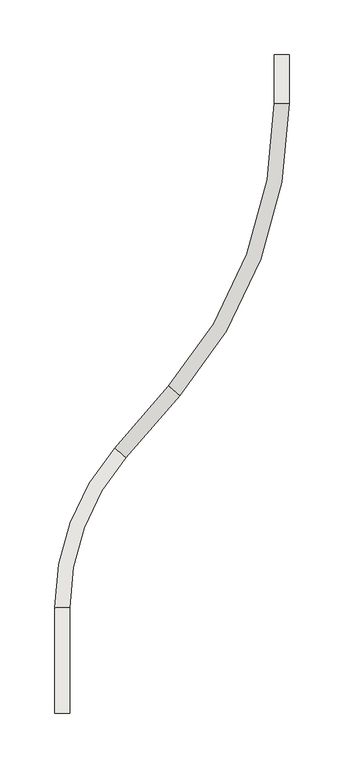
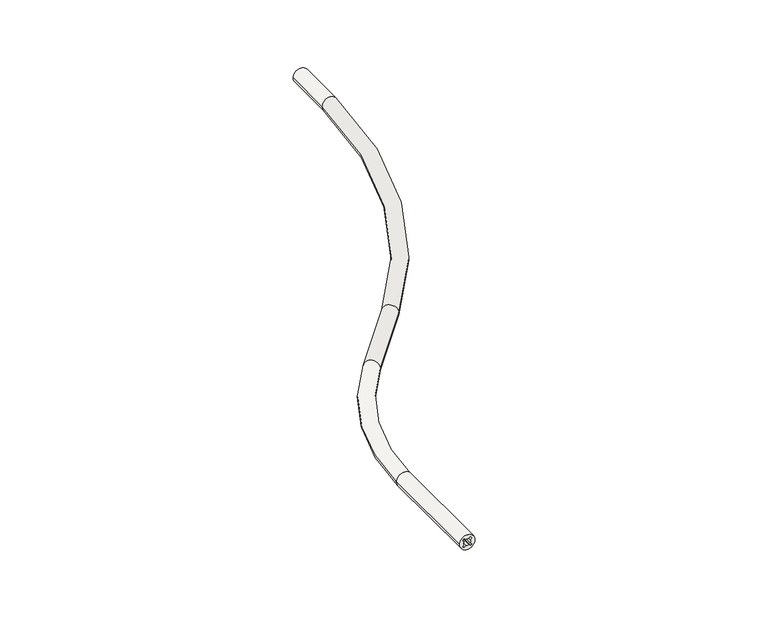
"""IFC4 building model written with IfcOpenShell, lengths in millimetres: covering geometry, SikaFuko® VT 1 : SikaFuko® VT-1."""

from ifc_helpers import new_model, si_unit, point, frame, origin, place, context, project, spatial, polyline, circle_curve, ellipse_curve, trimmed, source, transform, mapped, element, save
from ifc_brep_helpers import plane_surface, cylinder_surface, revolved_surface, advanced_brep


def covering_f5c34b17(model_context):
    return source(origin(), model_context, "Body", "AdvancedBrep", [
        advanced_brep(
        [(2789.7437039, 3596.0955189, 6.75), (2803.2437039, 3596.0955189, 6.75), (2797.9725233, 3596.0955189, 9.3601903), (2799.3463514, 3596.0955189, 10.7340184), (2800.4777222, 3596.0955189, 9.6026475), (2799.1038941, 3596.0955189, 8.2288194), (2799.1038941, 3596.0955189, 5.2711806), (2800.4777222, 3596.0955189, 3.8973525), (2799.3463514, 3596.0955189, 2.7659816), (2797.9725233, 3596.0955189, 4.1398097), (2795.0148845, 3596.0955189, 4.1398097), (2793.6410564, 3596.0955189, 2.7659816), (2792.5096855, 3596.0955189, 3.8973525), (2793.8835136, 3596.0955189, 5.2711806), (2793.8835136, 3596.0955189, 8.2288194), (2792.5096855, 3596.0955189, 9.6026475), (2793.6410564, 3596.0955189, 10.7340184), (2795.0148845, 3596.0955189, 9.3601903), (2999.3463514, 4152.2092698, 2.7659816), (3000.4777222, 4152.2092698, 3.8973525), (3000.4777222, 4196.0955189, 3.8973525), (2999.3463514, 4196.0955189, 2.7659816), (3003.2437039, 4152.2092698, 6.75), (2989.7437039, 4152.2092698, 6.75), (2989.7437039, 4196.0955189, 6.75), (3003.2437039, 4196.0955189, 6.75), (2999.1038941, 4152.2092698, 5.2711806), (2999.1038941, 4196.0955189, 5.2711806), (2999.3463514, 4152.2092698, 10.7340184), (2997.9725233, 4152.2092698, 9.3601903), (2997.9725233, 4196.0955189, 9.3601903), (2999.3463514, 4196.0955189, 10.7340184), (3000.4777222, 4152.2092698, 9.6026475), (3000.4777222, 4196.0955189, 9.6026475), (2995.0148845, 4152.2092698, 9.3601903), (2993.6410564, 4152.2092698, 10.7340184), (2993.6410564, 4196.0955189, 10.7340184), (2995.0148845, 4196.0955189, 9.3601903), (2999.1038941, 4152.2092698, 8.2288194), (2999.1038941, 4196.0955189, 8.2288194), (2992.5096855, 4152.2092698, 9.6026475), (2993.8835136, 4152.2092698, 8.2288194), (2993.8835136, 4196.0955189, 8.2288194), (2992.5096855, 4196.0955189, 9.6026475), (2993.8835136, 4152.2092698, 5.2711806), (2992.5096855, 4152.2092698, 3.8973525), (2992.5096855, 4196.0955189, 3.8973525), (2993.8835136, 4196.0955189, 5.2711806), (2993.6410564, 4152.2092698, 2.7659816), (2995.0148845, 4152.2092698, 4.1398097), (2995.0148845, 4196.0955189, 4.1398097), (2993.6410564, 4196.0955189, 2.7659816), (2997.9725233, 4152.2092698, 4.1398097), (2997.9725233, 4196.0955189, 4.1398097), (2800.4777222, 3692.1965105, 3.8973525), (2799.3463514, 3692.1965105, 2.7659816), (2789.7437039, 3692.1965105, 6.75), (2803.2437039, 3692.1965105, 6.75), (2799.1038941, 3692.1965105, 5.2711806), (2797.9725233, 3692.1965105, 9.3601903), (2799.3463514, 3692.1965105, 10.7340184), (2800.4777222, 3692.1965105, 9.6026475), (2793.6410564, 3692.1965105, 10.7340184), (2795.0148845, 3692.1965105, 9.3601903), (2799.1038941, 3692.1965105, 8.2288194), (2793.8835136, 3692.1965105, 8.2288194), (2792.5096855, 3692.1965105, 9.6026475), (2792.5096855, 3692.1965105, 3.8973525), (2793.8835136, 3692.1965105, 5.2711806), (2795.0148845, 3692.1965105, 4.1398097), (2793.6410564, 3692.1965105, 2.7659816), (2797.9725233, 3692.1965105, 4.1398097), (2851.3840645, 3831.3776966, 2.7659816), (2852.237921, 3830.6354505, 3.8973525), (2854.3254338, 3828.8208033, 6.75), (2844.1368545, 3837.6776001, 6.75), (2851.2010797, 3831.5367628, 5.2711806), (2851.3840645, 3831.3776966, 10.7340184), (2850.3472233, 3832.2790089, 9.3601903), (2852.237921, 3830.6354505, 9.6026475), (2848.115065, 3834.2193945, 9.3601903), (2847.0782237, 3835.1207069, 10.7340184), (2851.2010797, 3831.5367628, 8.2288194), (2846.2243673, 3835.8629529, 9.6026475), (2847.2612085, 3834.9616406, 8.2288194), (2847.2612085, 3834.9616406, 5.2711806), (2846.2243673, 3835.8629529, 3.8973525), (2847.0782237, 3835.1207069, 2.7659816), (2848.115065, 3834.2193945, 4.1398097), (2850.3472233, 3832.2790089, 4.1398097), (2901.3843128, 3887.171907, 3.8973525), (2900.5304564, 3887.914153, 2.7659816), (2893.2832463, 3894.2140566, 6.75), (2903.4718256, 3885.3572598, 6.75), (2900.3474716, 3888.0732193, 5.2711806), (2899.4936151, 3888.8154654, 9.3601903), (2900.5304564, 3887.914153, 10.7340184), (2901.3843128, 3887.171907, 9.6026475), (2896.2246156, 3891.6571633, 10.7340184), (2897.2614568, 3890.755851, 9.3601903), (2900.3474716, 3888.0732193, 8.2288194), (2896.4076004, 3891.4980971, 8.2288194), (2895.3707592, 3892.3994094, 9.6026475), (2895.3707592, 3892.3994094, 3.8973525), (2896.4076004, 3891.4980971, 5.2711806), (2897.2614568, 3890.755851, 4.1398097), (2896.2246156, 3891.6571633, 2.7659816), (2899.4936151, 3888.8154654, 4.1398097)],
        [
            (0, 1, circle_curve(frame((2796.4937039, 3596.0955189, 6.75), z_axis=(0.0, -1.0, 0.0), x_axis=(1.0, 0.0, 0.0)), 6.75)),
            (1, 0, circle_curve(frame((2796.4937039, 3596.0955189, 6.75), z_axis=(0.0, -1.0, 0.0), x_axis=(1.0, 0.0, 0.0)), 6.75)),
            (2, 3),
            (3, 4, circle_curve(frame((2796.4937039, 3596.0955189, 6.75), z_axis=(0.0, 1.0, 0.0), x_axis=(1.0, 0.0, 0.0)), 4.9)),
            (4, 5),
            (5, 6, circle_curve(frame((2796.4937039, 3596.0955189, 6.75), z_axis=(0.0, 1.0, 0.0), x_axis=(1.0, 0.0, 0.0)), 3.0)),
            (6, 7),
            (7, 8, circle_curve(frame((2796.4937039, 3596.0955189, 6.75), z_axis=(0.0, 1.0, 0.0), x_axis=(1.0, 0.0, 0.0)), 4.9)),
            (8, 9),
            (9, 10, circle_curve(frame((2796.4937039, 3596.0955189, 6.75), z_axis=(0.0, 1.0, 0.0), x_axis=(1.0, 0.0, 0.0)), 3.0)),
            (10, 11),
            (11, 12, circle_curve(frame((2796.4937039, 3596.0955189, 6.75), z_axis=(0.0, 1.0, 0.0), x_axis=(1.0, 0.0, 0.0)), 4.9)),
            (12, 13),
            (13, 14, circle_curve(frame((2796.4937039, 3596.0955189, 6.75), z_axis=(0.0, 1.0, 0.0), x_axis=(1.0, 0.0, 0.0)), 3.0)),
            (14, 15),
            (15, 16, circle_curve(frame((2796.4937039, 3596.0955189, 6.75), z_axis=(0.0, 1.0, 0.0), x_axis=(1.0, 0.0, 0.0)), 4.9)),
            (16, 17),
            (17, 2, circle_curve(frame((2796.4937039, 3596.0955189, 6.75), z_axis=(0.0, 1.0, 0.0), x_axis=(1.0, 0.0, 0.0)), 3.0)),
            (18, 19, circle_curve(frame((2996.4937039, 4152.2092698, 6.75), z_axis=(0.0, -1.0, 0.0), x_axis=(1.0, 0.0, 0.0)), 4.9)),
            (19, 20),
            (20, 21, circle_curve(frame((2996.4937039, 4196.0955189, 6.75), z_axis=(0.0, 1.0, 0.0), x_axis=(1.0, 0.0, 0.0)), 4.9)),
            (21, 18),
            (22, 23, circle_curve(frame((2996.4937039, 4152.2092698, 6.75), z_axis=(0.0, 1.0, 0.0), x_axis=(1.0, 0.0, 0.0)), 6.75)),
            (23, 24),
            (24, 25, circle_curve(frame((2996.4937039, 4196.0955189, 6.75), z_axis=(0.0, -1.0, 0.0), x_axis=(1.0, 0.0, 0.0)), 6.75)),
            (25, 22),
            (19, 26),
            (26, 27),
            (27, 20),
            (28, 29),
            (29, 30),
            (30, 31),
            (31, 28),
            (32, 28, circle_curve(frame((2996.4937039, 4152.2092698, 6.75), z_axis=(0.0, -1.0, 0.0), x_axis=(1.0, 0.0, 0.0)), 4.9)),
            (31, 33, circle_curve(frame((2996.4937039, 4196.0955189, 6.75), z_axis=(0.0, 1.0, 0.0), x_axis=(1.0, 0.0, 0.0)), 4.9)),
            (33, 32),
            (34, 35),
            (35, 36),
            (36, 37),
            (37, 34),
            (38, 32),
            (33, 39),
            (39, 38),
            (40, 41),
            (41, 42),
            (42, 43),
            (43, 40),
            (29, 34, circle_curve(frame((2996.4937039, 4152.2092698, 6.75), z_axis=(0.0, -1.0, 0.0), x_axis=(1.0, 0.0, 0.0)), 3.0)),
            (37, 30, circle_curve(frame((2996.4937039, 4196.0955189, 6.75), z_axis=(0.0, 1.0, 0.0), x_axis=(1.0, 0.0, 0.0)), 3.0)),
            (44, 45),
            (45, 46),
            (46, 47),
            (47, 44),
            (35, 40, circle_curve(frame((2996.4937039, 4152.2092698, 6.75), z_axis=(0.0, -1.0, 0.0), x_axis=(1.0, 0.0, 0.0)), 4.9)),
            (43, 36, circle_curve(frame((2996.4937039, 4196.0955189, 6.75), z_axis=(0.0, 1.0, 0.0), x_axis=(1.0, 0.0, 0.0)), 4.9)),
            (48, 49),
            (49, 50),
            (50, 51),
            (51, 48),
            (41, 44, circle_curve(frame((2996.4937039, 4152.2092698, 6.75), z_axis=(0.0, -1.0, 0.0), x_axis=(1.0, 0.0, 0.0)), 3.0)),
            (47, 42, circle_curve(frame((2996.4937039, 4196.0955189, 6.75), z_axis=(0.0, 1.0, 0.0), x_axis=(1.0, 0.0, 0.0)), 3.0)),
            (52, 18),
            (21, 53),
            (53, 52),
            (45, 48, circle_curve(frame((2996.4937039, 4152.2092698, 6.75), z_axis=(0.0, -1.0, 0.0), x_axis=(1.0, 0.0, 0.0)), 4.9)),
            (51, 46, circle_curve(frame((2996.4937039, 4196.0955189, 6.75), z_axis=(0.0, 1.0, 0.0), x_axis=(1.0, 0.0, 0.0)), 4.9)),
            (23, 22, circle_curve(frame((2996.4937039, 4152.2092698, 6.75), z_axis=(0.0, 1.0, 0.0), x_axis=(1.0, 0.0, 0.0)), 6.75)),
            (25, 24, circle_curve(frame((2996.4937039, 4196.0955189, 6.75), z_axis=(0.0, -1.0, 0.0), x_axis=(1.0, 0.0, 0.0)), 6.75)),
            (50, 53, circle_curve(frame((2996.4937039, 4196.0955189, 6.75), z_axis=(0.0, -1.0, 0.0), x_axis=(1.0, 0.0, 0.0)), 3.0)),
            (27, 39, circle_curve(frame((2996.4937039, 4196.0955189, 6.75), z_axis=(0.0, -1.0, 0.0), x_axis=(1.0, 0.0, 0.0)), 3.0)),
            (7, 54),
            (54, 55, circle_curve(frame((2796.4937039, 3692.1965105, 6.75), z_axis=(0.0, 1.0, 0.0), x_axis=(1.0, 0.0, 0.0)), 4.9)),
            (55, 8),
            (0, 56),
            (56, 57, circle_curve(frame((2796.4937039, 3692.1965105, 6.75), z_axis=(0.0, -1.0, 0.0), x_axis=(1.0, 0.0, 0.0)), 6.75)),
            (57, 1),
            (6, 58),
            (58, 54),
            (2, 59),
            (59, 60),
            (60, 3),
            (60, 61, circle_curve(frame((2796.4937039, 3692.1965105, 6.75), z_axis=(0.0, 1.0, 0.0), x_axis=(1.0, 0.0, 0.0)), 4.9)),
            (61, 4),
            (16, 62),
            (62, 63),
            (63, 17),
            (61, 64),
            (64, 5),
            (14, 65),
            (65, 66),
            (66, 15),
            (63, 59, circle_curve(frame((2796.4937039, 3692.1965105, 6.75), z_axis=(0.0, 1.0, 0.0), x_axis=(1.0, 0.0, 0.0)), 3.0)),
            (12, 67),
            (67, 68),
            (68, 13),
            (66, 62, circle_curve(frame((2796.4937039, 3692.1965105, 6.75), z_axis=(0.0, 1.0, 0.0), x_axis=(1.0, 0.0, 0.0)), 4.9)),
            (10, 69),
            (69, 70),
            (70, 11),
            (68, 65, circle_curve(frame((2796.4937039, 3692.1965105, 6.75), z_axis=(0.0, 1.0, 0.0), x_axis=(1.0, 0.0, 0.0)), 3.0)),
            (55, 71),
            (71, 9),
            (70, 67, circle_curve(frame((2796.4937039, 3692.1965105, 6.75), z_axis=(0.0, 1.0, 0.0), x_axis=(1.0, 0.0, 0.0)), 4.9)),
            (57, 56, circle_curve(frame((2796.4937039, 3692.1965105, 6.75), z_axis=(0.0, -1.0, 0.0), x_axis=(1.0, 0.0, 0.0)), 6.75)),
            (72, 55, circle_curve(frame((3011.4937039, 3692.1965105, 2.7659816), z_axis=(0.0, 0.0, 1.0), x_axis=(-1.0, 0.0, 0.0)), 212.1473525)),
            (54, 73, circle_curve(frame((3011.4937039, 3692.1965105, 3.8973525), z_axis=(0.0, 0.0, -1.0), x_axis=(-1.0, 0.0, 0.0)), 211.0159816)),
            (73, 72, circle_curve(frame((2849.2311441, 3833.2492017, 6.75), z_axis=(0.6560590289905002, 0.7547095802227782, 0.0), x_axis=(0.7547095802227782, -0.6560590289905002, 0.0)), 4.9)),
            (74, 57, circle_curve(frame((3011.4937039, 3692.1965105, 6.75), z_axis=(0.0, 0.0, 1.0), x_axis=(-1.0, 0.0, 0.0)), 208.25)),
            (56, 75, circle_curve(frame((3011.4937039, 3692.1965105, 6.75), z_axis=(0.0, 0.0, -1.0), x_axis=(-1.0, 0.0, 0.0)), 221.75)),
            (75, 74, circle_curve(frame((2849.2311441, 3833.2492017, 6.75), z_axis=(-0.6560590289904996, -0.7547095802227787, 0.0), x_axis=(0.7547095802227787, -0.6560590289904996, 0.0)), 6.75)),
            (58, 76, circle_curve(frame((3011.4937039, 3692.1965105, 5.2711806), z_axis=(0.0, 0.0, -1.0), x_axis=(-1.0, 0.0, 0.0)), 212.3898097)),
            (76, 73),
            (77, 60, circle_curve(frame((3011.4937039, 3692.1965105, 10.7340184), z_axis=(0.0, 0.0, 1.0), x_axis=(-1.0, 0.0, 0.0)), 212.1473525)),
            (59, 78, circle_curve(frame((3011.4937039, 3692.1965105, 9.3601903), z_axis=(0.0, 0.0, -1.0), x_axis=(-1.0, 0.0, 0.0)), 213.5211806)),
            (78, 77),
            (79, 61, circle_curve(frame((3011.4937039, 3692.1965105, 9.6026475), z_axis=(0.0, 0.0, 1.0), x_axis=(-1.0, 0.0, 0.0)), 211.0159816)),
            (77, 79, circle_curve(frame((2849.2311441, 3833.2492017, 6.75), z_axis=(0.6560590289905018, 0.7547095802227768, 0.0), x_axis=(0.7547095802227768, -0.6560590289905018, 0.0)), 4.9)),
            (80, 63, circle_curve(frame((3011.4937039, 3692.1965105, 9.3601903), z_axis=(0.0, 0.0, 1.0), x_axis=(-1.0, 0.0, 0.0)), 216.4788194)),
            (62, 81, circle_curve(frame((3011.4937039, 3692.1965105, 10.7340184), z_axis=(0.0, 0.0, -1.0), x_axis=(-1.0, 0.0, 0.0)), 217.8526475)),
            (81, 80),
            (82, 64, circle_curve(frame((3011.4937039, 3692.1965105, 8.2288194), z_axis=(0.0, 0.0, 1.0), x_axis=(-1.0, 0.0, 0.0)), 212.3898097)),
            (79, 82),
            (83, 66, circle_curve(frame((3011.4937039, 3692.1965105, 9.6026475), z_axis=(0.0, 0.0, 1.0), x_axis=(-1.0, 0.0, 0.0)), 218.9840184)),
            (65, 84, circle_curve(frame((3011.4937039, 3692.1965105, 8.2288194), z_axis=(0.0, 0.0, -1.0), x_axis=(-1.0, 0.0, 0.0)), 217.6101903)),
            (84, 83),
            (80, 78, circle_curve(frame((2849.2311441, 3833.2492017, 6.75), z_axis=(0.6560590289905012, 0.7547095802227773, 0.0), x_axis=(0.7547095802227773, -0.6560590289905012, 0.0)), 3.0)),
            (85, 68, circle_curve(frame((3011.4937039, 3692.1965105, 5.2711806), z_axis=(0.0, 0.0, 1.0), x_axis=(-1.0, 0.0, 0.0)), 217.6101903)),
            (67, 86, circle_curve(frame((3011.4937039, 3692.1965105, 3.8973525), z_axis=(0.0, 0.0, -1.0), x_axis=(-1.0, 0.0, 0.0)), 218.9840184)),
            (86, 85),
            (83, 81, circle_curve(frame((2849.2311441, 3833.2492017, 6.75), z_axis=(0.6560590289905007, 0.7547095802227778, 0.0), x_axis=(0.7547095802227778, -0.6560590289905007, 0.0)), 4.9)),
            (87, 70, circle_curve(frame((3011.4937039, 3692.1965105, 2.7659816), z_axis=(0.0, 0.0, 1.0), x_axis=(-1.0, 0.0, 0.0)), 217.8526475)),
            (69, 88, circle_curve(frame((3011.4937039, 3692.1965105, 4.1398097), z_axis=(0.0, 0.0, -1.0), x_axis=(-1.0, 0.0, 0.0)), 216.4788194)),
            (88, 87),
            (85, 84, circle_curve(frame((2849.2311441, 3833.2492017, 6.75), z_axis=(0.6560590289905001, 0.7547095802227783, 0.0), x_axis=(0.7547095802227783, -0.6560590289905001, 0.0)), 3.0)),
            (89, 71, circle_curve(frame((3011.4937039, 3692.1965105, 4.1398097), z_axis=(0.0, 0.0, 1.0), x_axis=(-1.0, 0.0, 0.0)), 213.5211806)),
            (72, 89),
            (87, 86, circle_curve(frame((2849.2311441, 3833.2492017, 6.75), z_axis=(0.656059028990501, 0.7547095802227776, 0.0), x_axis=(0.7547095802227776, -0.656059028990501, 0.0)), 4.9)),
            (74, 75, circle_curve(frame((2849.2311441, 3833.2492017, 6.75), z_axis=(-0.6560590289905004, -0.754709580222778, 0.0), x_axis=(0.754709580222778, -0.6560590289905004, 0.0)), 6.75)),
            (73, 90),
            (90, 91, circle_curve(frame((2898.377536, 3889.7856582, 6.75), z_axis=(0.6560590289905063, 0.7547095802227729, 0.0), x_axis=(0.7547095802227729, -0.6560590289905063, 0.0)), 4.9)),
            (91, 72),
            (75, 92),
            (92, 93, circle_curve(frame((2898.377536, 3889.7856582, 6.75), z_axis=(-0.6560590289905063, -0.7547095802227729, 0.0), x_axis=(0.7547095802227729, -0.6560590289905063, 0.0)), 6.75)),
            (93, 74),
            (76, 94),
            (94, 90),
            (78, 95),
            (95, 96),
            (96, 77),
            (96, 97, circle_curve(frame((2898.377536, 3889.7856582, 6.75), z_axis=(0.6560590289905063, 0.7547095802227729, 0.0), x_axis=(0.7547095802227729, -0.6560590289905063, 0.0)), 4.9)),
            (97, 79),
            (81, 98),
            (98, 99),
            (99, 80),
            (97, 100),
            (100, 82),
            (84, 101),
            (101, 102),
            (102, 83),
            (99, 95, circle_curve(frame((2898.377536, 3889.7856582, 6.75), z_axis=(0.6560590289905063, 0.7547095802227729, 0.0), x_axis=(0.7547095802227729, -0.6560590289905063, 0.0)), 3.0)),
            (86, 103),
            (103, 104),
            (104, 85),
            (102, 98, circle_curve(frame((2898.377536, 3889.7856582, 6.75), z_axis=(0.6560590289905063, 0.7547095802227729, 0.0), x_axis=(0.7547095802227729, -0.6560590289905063, 0.0)), 4.9)),
            (88, 105),
            (105, 106),
            (106, 87),
            (104, 101, circle_curve(frame((2898.377536, 3889.7856582, 6.75), z_axis=(0.6560590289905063, 0.7547095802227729, 0.0), x_axis=(0.7547095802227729, -0.6560590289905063, 0.0)), 3.0)),
            (91, 107),
            (107, 89),
            (106, 103, circle_curve(frame((2898.377536, 3889.7856582, 6.75), z_axis=(0.6560590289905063, 0.7547095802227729, 0.0), x_axis=(0.7547095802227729, -0.6560590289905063, 0.0)), 4.9)),
            (93, 92, circle_curve(frame((2898.377536, 3889.7856582, 6.75), z_axis=(-0.6560590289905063, -0.7547095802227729, 0.0), x_axis=(0.7547095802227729, -0.6560590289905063, 0.0)), 6.75)),
            (18, 91, circle_curve(frame((2596.4937039, 4152.2092698, 2.7659816), z_axis=(0.0, 0.0, -1.0), x_axis=(0.7547095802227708, -0.6560590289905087, 0.0)), 402.8526475)),
            (90, 19, circle_curve(frame((2596.4937039, 4152.2092698, 3.8973525), z_axis=(0.0, 0.0, 1.0), x_axis=(0.7547095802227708, -0.6560590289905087, 0.0)), 403.9840184)),
            (22, 93, circle_curve(frame((2596.4937039, 4152.2092698, 6.75), z_axis=(0.0, 0.0, -1.0), x_axis=(0.7547095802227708, -0.6560590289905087, 0.0)), 406.75)),
            (92, 23, circle_curve(frame((2596.4937039, 4152.2092698, 6.75), z_axis=(0.0, 0.0, 1.0), x_axis=(0.7547095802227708, -0.6560590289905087, 0.0)), 393.25)),
            (94, 26, circle_curve(frame((2596.4937039, 4152.2092698, 5.2711806), z_axis=(0.0, 0.0, 1.0), x_axis=(0.7547095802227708, -0.6560590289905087, 0.0)), 402.6101903)),
            (28, 96, circle_curve(frame((2596.4937039, 4152.2092698, 10.7340184), z_axis=(0.0, 0.0, -1.0), x_axis=(0.7547095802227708, -0.6560590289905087, 0.0)), 402.8526475)),
            (95, 29, circle_curve(frame((2596.4937039, 4152.2092698, 9.3601903), z_axis=(0.0, 0.0, 1.0), x_axis=(0.7547095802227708, -0.6560590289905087, 0.0)), 401.4788194)),
            (32, 97, circle_curve(frame((2596.4937039, 4152.2092698, 9.6026475), z_axis=(0.0, 0.0, -1.0), x_axis=(0.7547095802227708, -0.6560590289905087, 0.0)), 403.9840184)),
            (34, 99, circle_curve(frame((2596.4937039, 4152.2092698, 9.3601903), z_axis=(0.0, 0.0, -1.0), x_axis=(0.7547095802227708, -0.6560590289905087, 0.0)), 398.5211806)),
            (98, 35, circle_curve(frame((2596.4937039, 4152.2092698, 10.7340184), z_axis=(0.0, 0.0, 1.0), x_axis=(0.7547095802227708, -0.6560590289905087, 0.0)), 397.1473525)),
            (38, 100, circle_curve(frame((2596.4937039, 4152.2092698, 8.2288194), z_axis=(0.0, 0.0, -1.0), x_axis=(0.7547095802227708, -0.6560590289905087, 0.0)), 402.6101903)),
            (40, 102, circle_curve(frame((2596.4937039, 4152.2092698, 9.6026475), z_axis=(0.0, 0.0, -1.0), x_axis=(0.7547095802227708, -0.6560590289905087, 0.0)), 396.0159816)),
            (101, 41, circle_curve(frame((2596.4937039, 4152.2092698, 8.2288194), z_axis=(0.0, 0.0, 1.0), x_axis=(0.7547095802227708, -0.6560590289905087, 0.0)), 397.3898097)),
            (44, 104, circle_curve(frame((2596.4937039, 4152.2092698, 5.2711806), z_axis=(0.0, 0.0, -1.0), x_axis=(0.7547095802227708, -0.6560590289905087, 0.0)), 397.3898097)),
            (103, 45, circle_curve(frame((2596.4937039, 4152.2092698, 3.8973525), z_axis=(0.0, 0.0, 1.0), x_axis=(0.7547095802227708, -0.6560590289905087, 0.0)), 396.0159816)),
            (48, 106, circle_curve(frame((2596.4937039, 4152.2092698, 2.7659816), z_axis=(0.0, 0.0, -1.0), x_axis=(0.7547095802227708, -0.6560590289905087, 0.0)), 397.1473525)),
            (105, 49, circle_curve(frame((2596.4937039, 4152.2092698, 4.1398097), z_axis=(0.0, 0.0, 1.0), x_axis=(0.7547095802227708, -0.6560590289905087, 0.0)), 398.5211806)),
            (52, 107, circle_curve(frame((2596.4937039, 4152.2092698, 4.1398097), z_axis=(0.0, 0.0, -1.0), x_axis=(0.7547095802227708, -0.6560590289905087, 0.0)), 401.4788194)),
            (64, 58, circle_curve(frame((2796.4937039, 3692.1965105, 6.75), z_axis=(0.0, 1.0, 0.0), x_axis=(1.0, 0.0, 0.0)), 3.0)),
            (71, 69, circle_curve(frame((2796.4937039, 3692.1965105, 6.75), z_axis=(0.0, 1.0, 0.0), x_axis=(1.0, 0.0, 0.0)), 3.0)),
            (82, 76, circle_curve(frame((2849.2311441, 3833.2492017, 6.75), z_axis=(0.6560590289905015, 0.7547095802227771, 0.0), x_axis=(0.7547095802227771, -0.6560590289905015, 0.0)), 3.0)),
            (89, 88, circle_curve(frame((2849.2311441, 3833.2492017, 6.75), z_axis=(0.6560590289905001, 0.7547095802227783, 0.0), x_axis=(0.7547095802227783, -0.6560590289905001, 0.0)), 3.0)),
            (100, 94, circle_curve(frame((2898.377536, 3889.7856582, 6.75), z_axis=(0.6560590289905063, 0.7547095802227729, 0.0), x_axis=(0.7547095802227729, -0.6560590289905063, 0.0)), 3.0)),
            (107, 105, circle_curve(frame((2898.377536, 3889.7856582, 6.75), z_axis=(0.6560590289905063, 0.7547095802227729, 0.0), x_axis=(0.7547095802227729, -0.6560590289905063, 0.0)), 3.0)),
            (38, 26, circle_curve(frame((2996.4937039, 4152.2092698, 6.75), z_axis=(0.0, 1.0, 0.0), x_axis=(1.0, 0.0, 0.0)), 3.0)),
            (52, 49, circle_curve(frame((2996.4937039, 4152.2092698, 6.75), z_axis=(0.0, 1.0, 0.0), x_axis=(1.0, 0.0, 0.0)), 3.0)),
        ],
        [
            plane_surface(frame((2796.4937039, 3596.0955189, 6.75), z_axis=(0.0, -1.0, 0.0), x_axis=(0.0, 0.0, 1.0))),
            revolved_surface(polyline([(3001.3937039, 4196.0955189, 6.75), (3001.3937039, 4152.2092698, 6.75)]), (2996.4937039, 4152.2092698, 6.75), (0.0, 1.0, 0.0)),
            cylinder_surface(frame((2996.4937039, 4152.2092698, 6.75), z_axis=(0.0, -1.0, 0.0), x_axis=(1.0, 0.0, 0.0)), 6.75),
            plane_surface(frame((2999.1038941, 4152.2092698, 5.2711806), z_axis=(-0.7071067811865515, 0.0, -0.7071067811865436), x_axis=(0.0, 1.0, 0.0))),
            plane_surface(frame((2997.9725233, 4152.2092698, 9.3601903), z_axis=(0.7071067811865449, 0.0, -0.7071067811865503), x_axis=(0.0, 1.0, 0.0))),
            plane_surface(frame((2993.6410564, 4152.2092698, 10.7340184), z_axis=(-0.7071067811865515, 0.0, -0.7071067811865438), x_axis=(0.0, 1.0, 0.0))),
            plane_surface(frame((3000.4777222, 4152.2092698, 9.6026475), z_axis=(-0.7071067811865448, 0.0, 0.7071067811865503), x_axis=(0.0, 1.0, 0.0))),
            plane_surface(frame((2993.8835136, 4152.2092698, 8.2288194), z_axis=(0.7071067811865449, 0.0, 0.7071067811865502), x_axis=(0.0, 1.0, 0.0))),
            revolved_surface(polyline([(2999.4937039, 4196.0955189, 6.75), (2999.4937039, 4152.2092698, 6.75)]), (2996.4937039, 4152.2092698, 6.75), (0.0, 1.0, 0.0)),
            plane_surface(frame((2992.5096855, 4152.2092698, 3.8973525), z_axis=(0.7071067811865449, 0.0, -0.7071067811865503), x_axis=(0.0, 1.0, 0.0))),
            plane_surface(frame((2995.0148845, 4152.2092698, 4.1398097), z_axis=(-0.7071067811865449, 0.0, 0.7071067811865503), x_axis=(0.0, 1.0, 0.0))),
            plane_surface(frame((2999.3463514, 4152.2092698, 2.7659816), z_axis=(0.7071067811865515, 0.0, 0.7071067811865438), x_axis=(0.0, 1.0, 0.0))),
            plane_surface(frame((2996.4937039, 4196.0955189, 6.75), z_axis=(0.0, 1.0, 0.0), x_axis=(0.0, 0.0, 1.0))),
            revolved_surface(polyline([(2801.3937039, 3692.1965105, 6.75), (2801.3937039, 3596.0955189, 6.75)]), (2796.4937039, 3596.0955189, 6.75), (0.0, 1.0, 0.0)),
            cylinder_surface(frame((2796.4937039, 3596.0955189, 6.75), z_axis=(0.0, -1.0, 0.0), x_axis=(1.0, 0.0, 0.0)), 6.75),
            plane_surface(frame((2799.1038941, 3596.0955189, 5.2711806), z_axis=(-0.7071067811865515, 0.0, -0.7071067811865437), x_axis=(0.0, 1.0, 0.0))),
            plane_surface(frame((2797.9725233, 3596.0955189, 9.3601903), z_axis=(0.7071067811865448, 0.0, -0.7071067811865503), x_axis=(0.0, 1.0, 0.0))),
            plane_surface(frame((2793.6410564, 3596.0955189, 10.7340184), z_axis=(-0.7071067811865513, 0.0, -0.7071067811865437), x_axis=(0.0, 1.0, 0.0))),
            plane_surface(frame((2800.4777222, 3596.0955189, 9.6026475), z_axis=(-0.7071067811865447, 0.0, 0.7071067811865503), x_axis=(0.0, 1.0, 0.0))),
            plane_surface(frame((2793.8835136, 3596.0955189, 8.2288194), z_axis=(0.7071067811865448, 0.0, 0.7071067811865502), x_axis=(0.0, 1.0, 0.0))),
            revolved_surface(polyline([(2799.4937039, 3692.1965105, 6.75), (2799.4937039, 3596.0955189, 6.75)]), (2796.4937039, 3596.0955189, 6.75), (0.0, 1.0, 0.0)),
            plane_surface(frame((2792.5096855, 3596.0955189, 3.8973525), z_axis=(0.7071067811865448, 0.0, -0.7071067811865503), x_axis=(0.0, 1.0, 0.0))),
            plane_surface(frame((2795.0148845, 3596.0955189, 4.1398097), z_axis=(-0.7071067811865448, 0.0, 0.7071067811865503), x_axis=(0.0, 1.0, 0.0))),
            plane_surface(frame((2799.3463514, 3596.0955189, 2.7659816), z_axis=(0.7071067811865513, 0.0, 0.7071067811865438), x_axis=(0.0, 1.0, 0.0))),
            revolved_surface(trimmed(ellipse_curve(frame((2796.4937039, 3692.1965105, 6.75), z_axis=(0.0, 1.0, 0.0), x_axis=(1.0, 0.0, 0.0)), 4.9, 4.9), [point((2800.4777222, 3692.1965105, 3.8973525))], [point((2799.3463514, 3692.1965105, 2.7659816))], True, "CARTESIAN"), (3011.4937039, 3692.1965105, 6.75), (0.0, 0.0, -1.0)),
            revolved_surface(trimmed(ellipse_curve(frame((2796.4937039, 3692.1965105, 6.75), z_axis=(0.0, -1.0, 0.0), x_axis=(1.0, 0.0, 0.0)), 6.75, 6.75), [point((2789.7437039, 3692.1965105, 6.75))], [point((2803.2437039, 3692.1965105, 6.75))], True, "CARTESIAN"), (3011.4937039, 3692.1965105, 6.75), (0.0, 0.0, -1.0)),
            revolved_surface(polyline([(2799.1038941, 3692.1965105, 5.2711806), (2800.4777222, 3692.1965105, 3.8973525)]), (3011.4937039, 3692.1965105, 6.75), (0.0, 0.0, -1.0)),
            revolved_surface(polyline([(2797.9725233, 3692.1965105, 9.3601903), (2799.3463514, 3692.1965105, 10.7340184)]), (3011.4937039, 3692.1965105, 6.75), (0.0, 0.0, -1.0)),
            revolved_surface(trimmed(ellipse_curve(frame((2796.4937039, 3692.1965105, 6.75), z_axis=(0.0, 1.0, 0.0), x_axis=(1.0, 0.0, 0.0)), 4.9, 4.9), [point((2799.3463514, 3692.1965105, 10.7340184))], [point((2800.4777222, 3692.1965105, 9.6026475))], True, "CARTESIAN"), (3011.4937039, 3692.1965105, 6.75), (0.0, 0.0, -1.0)),
            revolved_surface(polyline([(2793.6410564, 3692.1965105, 10.7340184), (2795.0148845, 3692.1965105, 9.3601903)]), (3011.4937039, 3692.1965105, 6.75), (0.0, 0.0, -1.0)),
            revolved_surface(polyline([(2800.4777222, 3692.1965105, 9.6026475), (2799.1038941, 3692.1965105, 8.2288194)]), (3011.4937039, 3692.1965105, 6.75), (0.0, 0.0, -1.0)),
            revolved_surface(polyline([(2793.8835136, 3692.1965105, 8.2288194), (2792.5096855, 3692.1965105, 9.6026475)]), (3011.4937039, 3692.1965105, 6.75), (0.0, 0.0, -1.0)),
            revolved_surface(trimmed(ellipse_curve(frame((2796.4937039, 3692.1965105, 6.75), z_axis=(0.0, 1.0, 0.0), x_axis=(1.0, 0.0, 0.0)), 3.0, 3.0), [point((2795.0148845, 3692.1965105, 9.3601903))], [point((2797.9725233, 3692.1965105, 9.3601903))], True, "CARTESIAN"), (3011.4937039, 3692.1965105, 6.75), (0.0, 0.0, -1.0)),
            revolved_surface(polyline([(2792.5096855, 3692.1965105, 3.8973525), (2793.8835136, 3692.1965105, 5.2711806)]), (3011.4937039, 3692.1965105, 6.75), (0.0, 0.0, -1.0)),
            revolved_surface(trimmed(ellipse_curve(frame((2796.4937039, 3692.1965105, 6.75), z_axis=(0.0, 1.0, 0.0), x_axis=(1.0, 0.0, 0.0)), 4.9, 4.9), [point((2792.5096855, 3692.1965105, 9.6026475))], [point((2793.6410564, 3692.1965105, 10.7340184))], True, "CARTESIAN"), (3011.4937039, 3692.1965105, 6.75), (0.0, 0.0, -1.0)),
            revolved_surface(polyline([(2795.0148845, 3692.1965105, 4.1398097), (2793.6410564, 3692.1965105, 2.7659816)]), (3011.4937039, 3692.1965105, 6.75), (0.0, 0.0, -1.0)),
            revolved_surface(trimmed(ellipse_curve(frame((2796.4937039, 3692.1965105, 6.75), z_axis=(0.0, 1.0, 0.0), x_axis=(1.0, 0.0, 0.0)), 3.0, 3.0), [point((2793.8835136, 3692.1965105, 5.2711806))], [point((2793.8835136, 3692.1965105, 8.2288194))], True, "CARTESIAN"), (3011.4937039, 3692.1965105, 6.75), (0.0, 0.0, -1.0)),
            revolved_surface(polyline([(2799.3463514, 3692.1965105, 2.7659816), (2797.9725233, 3692.1965105, 4.1398097)]), (3011.4937039, 3692.1965105, 6.75), (0.0, 0.0, -1.0)),
            revolved_surface(trimmed(ellipse_curve(frame((2796.4937039, 3692.1965105, 6.75), z_axis=(0.0, 1.0, 0.0), x_axis=(1.0, 0.0, 0.0)), 4.9, 4.9), [point((2793.6410564, 3692.1965105, 2.7659816))], [point((2792.5096855, 3692.1965105, 3.8973525))], True, "CARTESIAN"), (3011.4937039, 3692.1965105, 6.75), (0.0, 0.0, -1.0)),
            revolved_surface(trimmed(ellipse_curve(frame((2796.4937039, 3692.1965105, 6.75), z_axis=(0.0, -1.0, 0.0), x_axis=(1.0, 0.0, 0.0)), 6.75, 6.75), [point((2803.2437039, 3692.1965105, 6.75))], [point((2789.7437039, 3692.1965105, 6.75))], True, "CARTESIAN"), (3011.4937039, 3692.1965105, 6.75), (0.0, 0.0, -1.0)),
            revolved_surface(polyline([(2902.075612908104, 3886.5709689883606, 6.75), (2852.9292210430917, 3830.0345124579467, 6.75)]), (2849.2311441, 3833.2492017, 6.75), (0.6560590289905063, 0.7547095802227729, 0.0)),
            cylinder_surface(frame((2849.2311441, 3833.2492017, 6.75), z_axis=(-0.6560590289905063, -0.7547095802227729, 0.0), x_axis=(0.7547095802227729, -0.6560590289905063, 0.0)), 6.75),
            plane_surface(frame((2851.2010797, 3831.5367628, 5.2711806), z_axis=(-0.5336602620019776, 0.4639037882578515, -0.7071067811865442), x_axis=(0.6560590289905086, 0.754709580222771, 0.0))),
            plane_surface(frame((2850.3472233, 3832.2790089, 9.3601903), z_axis=(0.5336602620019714, -0.46390378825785, -0.7071067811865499), x_axis=(0.6560590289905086, 0.754709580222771, 0.0))),
            plane_surface(frame((2847.0782237, 3835.1207069, 10.7340184), z_axis=(-0.5336602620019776, 0.4639037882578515, -0.7071067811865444), x_axis=(0.6560590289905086, 0.754709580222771, 0.0))),
            plane_surface(frame((2852.237921, 3830.6354505, 9.6026475), z_axis=(-0.533660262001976, 0.4639037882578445, 0.70710678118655), x_axis=(0.6560590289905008, 0.7547095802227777, 0.0))),
            plane_surface(frame((2847.2612085, 3834.9616406, 8.2288194), z_axis=(0.5336602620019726, -0.46390378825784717, 0.707106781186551), x_axis=(0.6560590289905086, 0.754709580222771, 0.0))),
            revolved_surface(polyline([(2900.641664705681, 3887.8174811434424, 6.75), (2851.4952728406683, 3831.2810246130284, 6.75)]), (2849.2311441, 3833.2492017, 6.75), (0.6560590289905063, 0.7547095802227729, 0.0)),
            plane_surface(frame((2846.2243673, 3835.8629529, 3.8973525), z_axis=(0.5336602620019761, -0.4639037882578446, -0.7071067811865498), x_axis=(0.6560590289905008, 0.7547095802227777, 0.0))),
            revolved_surface(polyline([(2902.075612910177, 3886.5709689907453, 6.75), (2852.9292210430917, 3830.0345124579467, 6.75)]), (2849.2311441, 3833.2492017, 6.75), (0.6560590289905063, 0.7547095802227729, 0.0)),
            plane_surface(frame((2848.115065, 3834.2193945, 4.1398097), z_axis=(-0.5336602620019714, 0.46390378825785, 0.7071067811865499), x_axis=(0.6560590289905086, 0.754709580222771, 0.0))),
            revolved_surface(polyline([(2900.641664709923, 3887.8174811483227, 6.75), (2851.4952728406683, 3831.2810246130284, 6.75)]), (2849.2311441, 3833.2492017, 6.75), (0.6560590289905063, 0.7547095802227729, 0.0)),
            plane_surface(frame((2851.3840645, 3831.3776966, 2.7659816), z_axis=(0.5336602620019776, -0.46390378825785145, 0.7071067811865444), x_axis=(0.6560590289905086, 0.754709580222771, 0.0))),
            revolved_surface(trimmed(ellipse_curve(frame((2898.377536, 3889.7856582, 6.75), z_axis=(0.6560590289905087, 0.7547095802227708, 0.0), x_axis=(0.7547095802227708, -0.6560590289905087, 0.0)), 4.9, 4.9), [point((2901.3843128, 3887.171907, 3.8973525))], [point((2900.5304564, 3887.914153, 2.7659816))], True, "CARTESIAN"), (2596.4937039, 4152.2092698, 6.75), (0.0, 0.0, 1.0)),
            revolved_surface(trimmed(ellipse_curve(frame((2898.377536, 3889.7856582, 6.75), z_axis=(-0.6560590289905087, -0.7547095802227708, 0.0), x_axis=(0.7547095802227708, -0.6560590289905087, 0.0)), 6.75, 6.75), [point((2893.2832463, 3894.2140566, 6.75))], [point((2903.4718256, 3885.3572598, 6.75))], True, "CARTESIAN"), (2596.4937039, 4152.2092698, 6.75), (0.0, 0.0, 1.0)),
            revolved_surface(polyline([(2900.3474716, 3888.0732193, 5.2711806), (2901.3843128, 3887.171907, 3.8973525)]), (2596.4937039, 4152.2092698, 6.75), (0.0, 0.0, 1.0)),
            revolved_surface(polyline([(2899.4936151, 3888.8154654, 9.3601903), (2900.5304564, 3887.914153, 10.7340184)]), (2596.4937039, 4152.2092698, 6.75), (0.0, 0.0, 1.0)),
            revolved_surface(trimmed(ellipse_curve(frame((2898.377536, 3889.7856582, 6.75), z_axis=(0.6560590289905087, 0.7547095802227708, 0.0), x_axis=(0.7547095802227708, -0.6560590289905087, 0.0)), 4.9, 4.9), [point((2900.5304564, 3887.914153, 10.7340184))], [point((2901.3843128, 3887.171907, 9.6026475))], True, "CARTESIAN"), (2596.4937039, 4152.2092698, 6.75), (0.0, 0.0, 1.0)),
            revolved_surface(polyline([(2896.2246156, 3891.6571633, 10.7340184), (2897.2614568, 3890.755851, 9.3601903)]), (2596.4937039, 4152.2092698, 6.75), (0.0, 0.0, 1.0)),
            revolved_surface(polyline([(2901.3843128, 3887.171907, 9.6026475), (2900.3474716, 3888.0732193, 8.2288194)]), (2596.4937039, 4152.2092698, 6.75), (0.0, 0.0, 1.0)),
            revolved_surface(polyline([(2896.4076004, 3891.4980971, 8.2288194), (2895.3707592, 3892.3994094, 9.6026475)]), (2596.4937039, 4152.2092698, 6.75), (0.0, 0.0, 1.0)),
            revolved_surface(trimmed(ellipse_curve(frame((2898.377536, 3889.7856582, 6.75), z_axis=(0.6560590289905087, 0.7547095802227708, 0.0), x_axis=(0.7547095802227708, -0.6560590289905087, 0.0)), 3.0, 3.0), [point((2897.2614568, 3890.755851, 9.3601903))], [point((2899.4936151, 3888.8154654, 9.3601903))], True, "CARTESIAN"), (2596.4937039, 4152.2092698, 6.75), (0.0, 0.0, 1.0)),
            revolved_surface(polyline([(2895.3707592, 3892.3994094, 3.8973525), (2896.4076004, 3891.4980971, 5.2711806)]), (2596.4937039, 4152.2092698, 6.75), (0.0, 0.0, 1.0)),
            revolved_surface(trimmed(ellipse_curve(frame((2898.377536, 3889.7856582, 6.75), z_axis=(0.6560590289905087, 0.7547095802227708, 0.0), x_axis=(0.7547095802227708, -0.6560590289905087, 0.0)), 4.9, 4.9), [point((2895.3707592, 3892.3994094, 9.6026475))], [point((2896.2246156, 3891.6571633, 10.7340184))], True, "CARTESIAN"), (2596.4937039, 4152.2092698, 6.75), (0.0, 0.0, 1.0)),
            revolved_surface(polyline([(2897.2614568, 3890.755851, 4.1398097), (2896.2246156, 3891.6571633, 2.7659816)]), (2596.4937039, 4152.2092698, 6.75), (0.0, 0.0, 1.0)),
            revolved_surface(trimmed(ellipse_curve(frame((2898.377536, 3889.7856582, 6.75), z_axis=(0.6560590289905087, 0.7547095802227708, 0.0), x_axis=(0.7547095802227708, -0.6560590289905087, 0.0)), 3.0, 3.0), [point((2896.4076004, 3891.4980971, 5.2711806))], [point((2896.4076004, 3891.4980971, 8.2288194))], True, "CARTESIAN"), (2596.4937039, 4152.2092698, 6.75), (0.0, 0.0, 1.0)),
            revolved_surface(polyline([(2900.5304564, 3887.914153, 2.7659816), (2899.4936151, 3888.8154654, 4.1398097)]), (2596.4937039, 4152.2092698, 6.75), (0.0, 0.0, 1.0)),
            revolved_surface(trimmed(ellipse_curve(frame((2898.377536, 3889.7856582, 6.75), z_axis=(0.6560590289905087, 0.7547095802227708, 0.0), x_axis=(0.7547095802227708, -0.6560590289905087, 0.0)), 4.9, 4.9), [point((2896.2246156, 3891.6571633, 2.7659816))], [point((2895.3707592, 3892.3994094, 3.8973525))], True, "CARTESIAN"), (2596.4937039, 4152.2092698, 6.75), (0.0, 0.0, 1.0)),
            revolved_surface(trimmed(ellipse_curve(frame((2898.377536, 3889.7856582, 6.75), z_axis=(-0.6560590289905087, -0.7547095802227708, 0.0), x_axis=(0.7547095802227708, -0.6560590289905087, 0.0)), 6.75, 6.75), [point((2903.4718256, 3885.3572598, 6.75))], [point((2893.2832463, 3894.2140566, 6.75))], True, "CARTESIAN"), (2596.4937039, 4152.2092698, 6.75), (0.0, 0.0, 1.0)),
            revolved_surface(trimmed(ellipse_curve(frame((2796.4937039, 3692.1965105, 6.75), z_axis=(0.0, 1.0, 0.0), x_axis=(1.0, 0.0, 0.0)), 3.0, 3.0), [point((2799.1038941, 3692.1965105, 8.2288194))], [point((2799.1038941, 3692.1965105, 5.2711806))], True, "CARTESIAN"), (3011.4937039, 3692.1965105, 6.75), (0.0, 0.0, -1.0)),
            revolved_surface(trimmed(ellipse_curve(frame((2796.4937039, 3692.1965105, 6.75), z_axis=(0.0, 1.0, 0.0), x_axis=(1.0, 0.0, 0.0)), 3.0, 3.0), [point((2797.9725233, 3692.1965105, 4.1398097))], [point((2795.0148845, 3692.1965105, 4.1398097))], True, "CARTESIAN"), (3011.4937039, 3692.1965105, 6.75), (0.0, 0.0, -1.0)),
            revolved_surface(polyline([(2900.641664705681, 3887.8174811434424, 6.75), (2851.495272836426, 3831.281024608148, 6.75)]), (2849.2311441, 3833.2492017, 6.75), (0.6560590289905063, 0.7547095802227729, 0.0)),
            revolved_surface(trimmed(ellipse_curve(frame((2898.377536, 3889.7856582, 6.75), z_axis=(0.6560590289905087, 0.7547095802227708, 0.0), x_axis=(0.7547095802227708, -0.6560590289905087, 0.0)), 3.0, 3.0), [point((2900.3474716, 3888.0732193, 8.2288194))], [point((2900.3474716, 3888.0732193, 5.2711806))], True, "CARTESIAN"), (2596.4937039, 4152.2092698, 6.75), (0.0, 0.0, 1.0)),
            revolved_surface(trimmed(ellipse_curve(frame((2898.377536, 3889.7856582, 6.75), z_axis=(0.6560590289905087, 0.7547095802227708, 0.0), x_axis=(0.7547095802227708, -0.6560590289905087, 0.0)), 3.0, 3.0), [point((2899.4936151, 3888.8154654, 4.1398097))], [point((2897.2614568, 3890.755851, 4.1398097))], True, "CARTESIAN"), (2596.4937039, 4152.2092698, 6.75), (0.0, 0.0, 1.0)),
        ],
        [
            (0, [[1, 2], [3, 4, 5, 6, 7, 8, 9, 10, 11, 12, 13, 14, 15, 16, 17, 18]]),
            (1, [[19, 20, 21, 22]]),
            (2, [[23, 24, 25, 26]]),
            (3, [[27, 28, 29, -20]]),
            (4, [[30, 31, 32, 33]]),
            (1, [[34, -33, 35, 36]]),
            (5, [[37, 38, 39, 40]]),
            (6, [[41, -36, 42, 43]]),
            (7, [[44, 45, 46, 47]]),
            (8, [[48, -40, 49, -31]]),
            (9, [[50, 51, 52, 53]]),
            (1, [[54, -47, 55, -38]]),
            (10, [[56, 57, 58, 59]]),
            (8, [[60, -53, 61, -45]]),
            (11, [[62, -22, 63, 64]]),
            (1, [[65, -59, 66, -51]]),
            (2, [[67, -26, 68, -24]]),
            (12, [[-68, -25], [-49, -39, -55, -46, -61, -52, -66, -58, 69, -63, -21, -29, 70, -42, -35, -32]]),
            (13, [[-8, 71, 72, 73]]),
            (14, [[-1, 74, 75, 76]]),
            (15, [[-7, 77, 78, -71]]),
            (16, [[-3, 79, 80, 81]]),
            (13, [[-4, -81, 82, 83]]),
            (17, [[-17, 84, 85, 86]]),
            (18, [[-5, -83, 87, 88]]),
            (19, [[-15, 89, 90, 91]]),
            (20, [[-18, -86, 92, -79]]),
            (21, [[-13, 93, 94, 95]]),
            (13, [[-16, -91, 96, -84]]),
            (22, [[-11, 97, 98, 99]]),
            (20, [[-14, -95, 100, -89]]),
            (23, [[-9, -73, 101, 102]]),
            (13, [[-12, -99, 103, -93]]),
            (14, [[-2, -76, 104, -74]]),
            (24, [[105, -72, 106, 107]]),
            (25, [[108, -75, 109, 110]]),
            (26, [[-106, -78, 111, 112]]),
            (27, [[113, -80, 114, 115]]),
            (28, [[116, -82, -113, 117]]),
            (29, [[118, -85, 119, 120]]),
            (30, [[121, -87, -116, 122]]),
            (31, [[123, -90, 124, 125]]),
            (32, [[-114, -92, -118, 126]]),
            (33, [[127, -94, 128, 129]]),
            (34, [[-119, -96, -123, 130]]),
            (35, [[131, -98, 132, 133]]),
            (36, [[-124, -100, -127, 134]]),
            (37, [[135, -101, -105, 136]]),
            (38, [[-128, -103, -131, 137]]),
            (39, [[-109, -104, -108, 138]]),
            (40, [[-107, 139, 140, 141]]),
            (41, [[-110, 142, 143, 144]]),
            (42, [[-112, 145, 146, -139]]),
            (43, [[-115, 147, 148, 149]]),
            (40, [[-117, -149, 150, 151]]),
            (44, [[-120, 152, 153, 154]]),
            (45, [[-122, -151, 155, 156]]),
            (46, [[-125, 157, 158, 159]]),
            (47, [[-126, -154, 160, -147]]),
            (48, [[-129, 161, 162, 163]]),
            (49, [[-130, -159, 164, -152]]),
            (50, [[-133, 165, 166, 167]]),
            (51, [[-134, -163, 168, -157]]),
            (52, [[-136, -141, 169, 170]]),
            (49, [[-137, -167, 171, -161]]),
            (41, [[-138, -144, 172, -142]]),
            (53, [[173, -140, 174, -19]]),
            (54, [[175, -143, 176, -23]]),
            (55, [[-174, -146, 177, -27]]),
            (56, [[178, -148, 179, -30]]),
            (57, [[180, -150, -178, -34]]),
            (58, [[181, -153, 182, -37]]),
            (59, [[183, -155, -180, -41]]),
            (60, [[184, -158, 185, -44]]),
            (61, [[-179, -160, -181, -48]]),
            (62, [[186, -162, 187, -50]]),
            (63, [[-182, -164, -184, -54]]),
            (64, [[188, -166, 189, -56]]),
            (65, [[-185, -168, -186, -60]]),
            (66, [[190, -169, -173, -62]]),
            (67, [[-187, -171, -188, -65]]),
            (68, [[-176, -172, -175, -67]]),
            (20, [[-6, -88, 191, -77]]),
            (20, [[-10, -102, 192, -97]]),
            (69, [[-111, -191, -121, 193]]),
            (70, [[-132, -192, -135, 194]]),
            (71, [[-193, -156, 195, -145]]),
            (47, [[-194, -170, 196, -165]]),
            (72, [[-177, -195, -183, 197]]),
            (73, [[-189, -196, -190, 198]]),
            (8, [[-197, -43, -70, -28]]),
            (8, [[-198, -64, -69, -57]]),
        ],
    ),
    ])


if __name__ == "__main__":
    model = new_model("IFC4")
    model_context = context("Model", 3, world=origin())
    ifc_project = project(units=[si_unit("LENGTHUNIT", "METRE", prefix="MILLI")], contexts=[model_context])
    site = spatial("IfcSite", under=ifc_project)
    building = spatial("IfcBuilding", under=site)
    placement = place(None, origin())
    covering_shape = covering_f5c34b17(model_context)
    element("IfcCovering", 1, ObjectType="SikaFuko® VT 1 : SikaFuko® VT-1", at=placement, inside=building, context=model_context, shape_type="MappedRepresentation", body=[
        mapped(covering_shape, transform((0.0, 0.0, 0.0), x_axis=(1.0, 0.0, 0.0), y_axis=(0.0, 1.0, 0.0), z_axis=(0.0, 0.0, 1.0))),
    ])
    save(model, "model.ifc")
